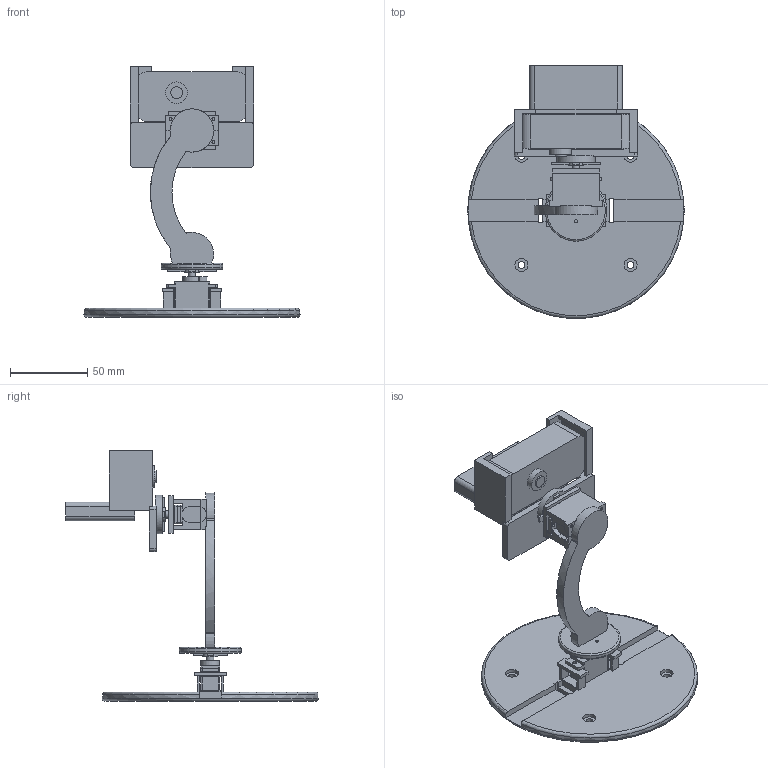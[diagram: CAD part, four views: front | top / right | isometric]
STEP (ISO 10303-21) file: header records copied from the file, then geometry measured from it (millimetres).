
FILE_DESCRIPTION(('Open CASCADE Model'),'2;1');
FILE_NAME('Open CASCADE Shape Model','2026-08-28T14:41:55',('Author'),( 'Open CASCADE'),'Open CASCADE STEP processor 7.8','Open CASCADE 7.8' ,'Unknown');
FILE_SCHEMA(('AUTOMOTIVE_DESIGN { 1 0 10303 214 1 1 1 1 }'));
Length unit declared in the file: millimetre
Products named in the file (11): C270_PanTilt_Full_Assembly_With_Servos; PanServo_StabilityBase; CurvedArm_SG90_TiltHolder; SG90_RetainingCap; Logitech_C270_ScrewlessCradle; SG90_Pan_Body; SG90_Pan_Horn; SG90_Tilt_Body; SG90_Tilt_Horn; C270_Webcam_Body; C270_Fixed_Clip
Assembly tree (10 placements, depth 2):
  C270_PanTilt_Full_Assembly_With_Servos
    PanServo_StabilityBase
    CurvedArm_SG90_TiltHolder
    SG90_RetainingCap
    Logitech_C270_ScrewlessCradle
    SG90_Pan_Body
    SG90_Pan_Horn
    SG90_Tilt_Body
    SG90_Tilt_Horn
    C270_Webcam_Body
    C270_Fixed_Clip
Bounding box: 140 x 163.64 x 162.31 mm (x, y, z)
Volume: 227046.5 mm3; surface area: 86634.5 mm2
Topology: 10 solids, 10 shells, 338 faces, 918 edges, 609 vertices
Faces by surface type: plane 230, cylinder 95, bspline 8, torus 5
Full cylindrical faces by diameter (mm): 1.8 x4, 1.9 x2, 2 x10, 2.2 x4, 2.4 x4, 3.2 x2, 4.4 x4, 4.7 x2, 7.6 x1, 8.4 x4, 9.6 x2, 14 x1, 21 x1, 25 x1, 40 x1, 140 x1
Entity records: 23603 total; most frequent: CARTESIAN_POINT 5389, DIRECTION 3195, LINE 1837, VECTOR 1837, ORIENTED_EDGE 1836, PCURVE 1836, DEFINITIONAL_REPRESENTATION 1836, EDGE_CURVE 918
